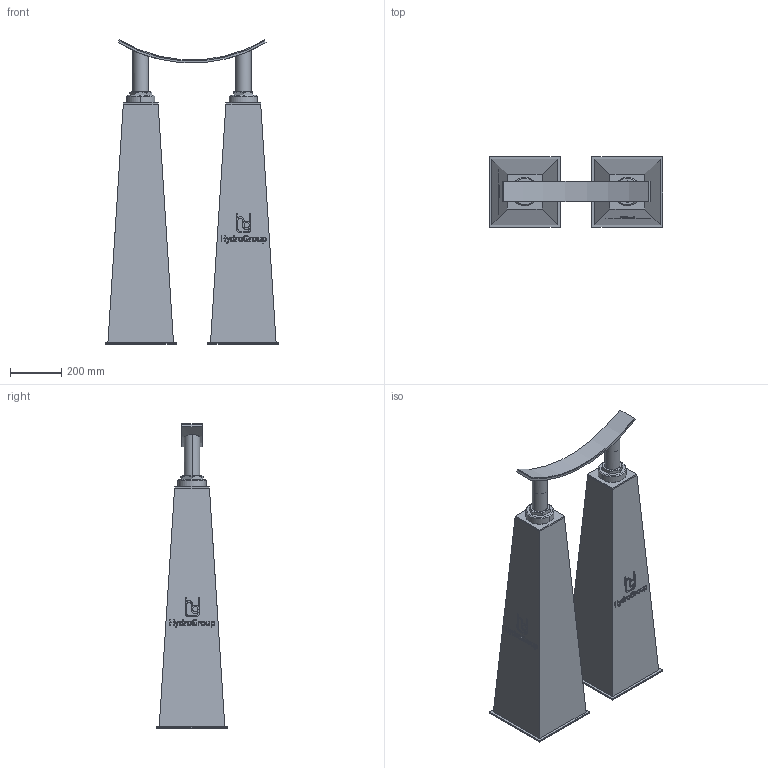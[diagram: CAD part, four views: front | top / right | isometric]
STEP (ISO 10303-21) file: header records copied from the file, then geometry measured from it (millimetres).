
FILE_DESCRIPTION(('STEP AP214'),'1');
FILE_NAME('RSRFE-III-DUO_DN1100.stp','2018-06-29T07:48:00',(' '),(' '),'Spatial InterOp 3D',' ',' ');
FILE_SCHEMA(('automotive_design'));
Length unit declared in the file: millimetre
Products named in the file (10): 1; 2; 3; 4; 5; 6; 7; 8; 9; 10
Bounding box: 676.01 x 276.01 x 1187.22 mm (x, y, z)
Volume: 77710016.8 mm3; surface area: 2454574.5 mm2
Topology: 10 solids, 12 shells, 422 faces, 1042 edges, 680 vertices
Faces by surface type: plane 270, cylinder 72, extrusion 48, cone 32
Entity records: 17769 total; most frequent: CARTESIAN_POINT 4282, ORIENTED_EDGE 2084, DIRECTION 1882, EDGE_CURVE 1042, VECTOR 802, LINE 754, VERTEX_POINT 680, AXIS2_PLACEMENT_3D 540
